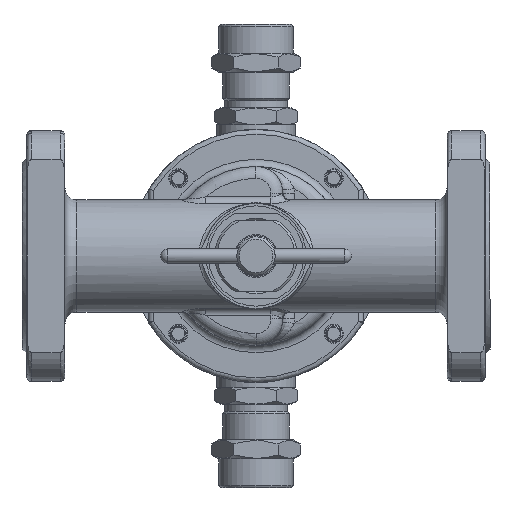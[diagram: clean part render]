
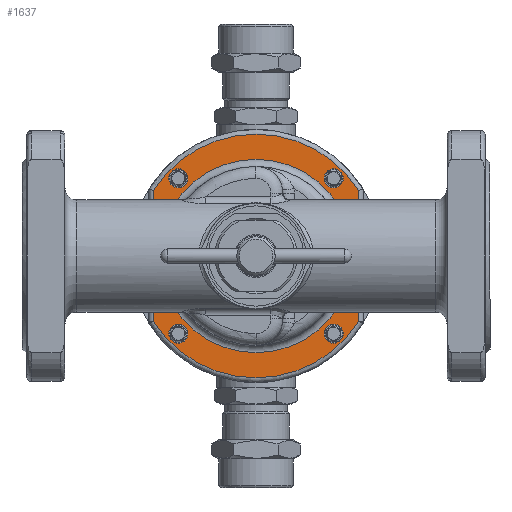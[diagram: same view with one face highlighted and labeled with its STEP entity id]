
A CAD part, front view. The second image highlights one B-rep face of the part: STEP entity #1637.
In plain terms, the highlighted planar face has unit normal (0, -1, 0).
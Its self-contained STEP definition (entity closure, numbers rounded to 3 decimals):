
#1637=ADVANCED_FACE('',(#17284,#17286,#17288,#17290,#17292,#17294),#17296,.F.);
#17284=FACE_BOUND('',#17285,.T.);
#17285=EDGE_LOOP('',(#29977));
#17286=FACE_BOUND('',#17287,.T.);
#17287=EDGE_LOOP('',(#29978));
#17288=FACE_BOUND('',#17289,.T.);
#17289=EDGE_LOOP('',(#29979));
#17290=FACE_BOUND('',#17291,.T.);
#17291=EDGE_LOOP('',(#29980));
#17292=FACE_BOUND('',#17293,.T.);
#17293=EDGE_LOOP('',(#29981));
#17294=FACE_OUTER_BOUND('',#17295,.T.);
#17295=EDGE_LOOP('',(#29982,#29983,#29984,#29985));
#17296=PLANE('',#17297);
#17297=AXIS2_PLACEMENT_3D('',#17298,#17299,#17300);
#17298=CARTESIAN_POINT('',(0.,30.,0.));
#17299=DIRECTION('',(0.,1.,0.));
#17300=DIRECTION('',(-1.,0.,0.));
#29977=ORIENTED_EDGE('',*,*,#37827,.F.);
#29978=ORIENTED_EDGE('',*,*,#37828,.F.);
#29979=ORIENTED_EDGE('',*,*,#37829,.F.);
#29980=ORIENTED_EDGE('',*,*,#37830,.F.);
#29981=ORIENTED_EDGE('',*,*,#37831,.F.);
#29982=ORIENTED_EDGE('',*,*,#37790,.F.);
#29983=ORIENTED_EDGE('',*,*,#37798,.F.);
#29984=ORIENTED_EDGE('',*,*,#37795,.F.);
#29985=ORIENTED_EDGE('',*,*,#37793,.F.);
#37790=EDGE_CURVE('',#45431,#45433,#45434,.T.);
#37793=EDGE_CURVE('',#45433,#45437,#45438,.T.);
#37795=EDGE_CURVE('',#45437,#45440,#45441,.T.);
#37798=EDGE_CURVE('',#45440,#45431,#45444,.T.);
#37827=EDGE_CURVE('',#45479,#45479,#45480,.T.);
#37828=EDGE_CURVE('',#45481,#45481,#45482,.T.);
#37829=EDGE_CURVE('',#45483,#45483,#45484,.T.);
#37830=EDGE_CURVE('',#45485,#45485,#45486,.T.);
#37831=EDGE_CURVE('',#45487,#45487,#45488,.T.);
#45431=VERTEX_POINT('',#69375);
#45433=VERTEX_POINT('',#69390);
#45434=CIRCLE('',#69391,51.);
#45437=VERTEX_POINT('',#69423);
#45438=LINE('',#69424,#69425);
#45440=VERTEX_POINT('',#69446);
#45441=CIRCLE('',#69447,51.);
#45444=LINE('',#69484,#69485);
#45479=VERTEX_POINT('',#69601);
#45480=CIRCLE('',#69602,4.);
#45481=VERTEX_POINT('',#69606);
#45482=CIRCLE('',#69607,4.);
#45483=VERTEX_POINT('',#69611);
#45484=CIRCLE('',#69612,40.5);
#45485=VERTEX_POINT('',#69616);
#45486=CIRCLE('',#69617,4.);
#45487=VERTEX_POINT('',#69621);
#45488=CIRCLE('',#69622,4.);
#69375=CARTESIAN_POINT('',(43.,30.,-27.423));
#69390=CARTESIAN_POINT('',(-43.,30.,-27.423));
#69391=AXIS2_PLACEMENT_3D('',#69392,#69393,#69394);
#69392=CARTESIAN_POINT('',(0.,30.,0.));
#69393=DIRECTION('',(0.,1.,0.));
#69394=DIRECTION('',(0.843,0.,-0.538));
#69423=CARTESIAN_POINT('',(-43.,30.,27.423));
#69424=CARTESIAN_POINT('',(-43.,30.,-27.423));
#69425=VECTOR('',#69426,1.);
#69426=DIRECTION('',(0.,0.,1.));
#69446=CARTESIAN_POINT('',(43.,30.,27.423));
#69447=AXIS2_PLACEMENT_3D('',#69448,#69449,#69450);
#69448=CARTESIAN_POINT('',(0.,30.,0.));
#69449=DIRECTION('',(0.,1.,0.));
#69450=DIRECTION('',(-0.843,0.,0.538));
#69484=CARTESIAN_POINT('',(43.,30.,27.423));
#69485=VECTOR('',#69486,1.);
#69486=DIRECTION('',(0.,0.,-1.));
#69601=CARTESIAN_POINT('',(-30.567,30.,29.04));
#69602=AXIS2_PLACEMENT_3D('',#69603,#69604,#69605);
#69603=CARTESIAN_POINT('',(-32.527,30.,32.527));
#69604=DIRECTION('',(0.,-1.,0.));
#69605=DIRECTION('',(0.49,0.,-0.872));
#69606=CARTESIAN_POINT('',(29.04,30.,30.567));
#69607=AXIS2_PLACEMENT_3D('',#69608,#69609,#69610);
#69608=CARTESIAN_POINT('',(32.527,30.,32.527));
#69609=DIRECTION('',(0.,-1.,0.));
#69610=DIRECTION('',(-0.872,0.,-0.49));
#69611=CARTESIAN_POINT('',(-40.5,30.,0.));
#69612=AXIS2_PLACEMENT_3D('',#69613,#69614,#69615);
#69613=CARTESIAN_POINT('',(0.,30.,0.));
#69614=DIRECTION('',(0.,-1.,0.));
#69615=DIRECTION('',(-1.,0.,0.));
#69616=CARTESIAN_POINT('',(-29.04,30.,-30.567));
#69617=AXIS2_PLACEMENT_3D('',#69618,#69619,#69620);
#69618=CARTESIAN_POINT('',(-32.527,30.,-32.527));
#69619=DIRECTION('',(0.,-1.,0.));
#69620=DIRECTION('',(0.872,0.,0.49));
#69621=CARTESIAN_POINT('',(30.567,30.,-29.04));
#69622=AXIS2_PLACEMENT_3D('',#69623,#69624,#69625);
#69623=CARTESIAN_POINT('',(32.527,30.,-32.527));
#69624=DIRECTION('',(0.,-1.,0.));
#69625=DIRECTION('',(-0.49,0.,0.872));
